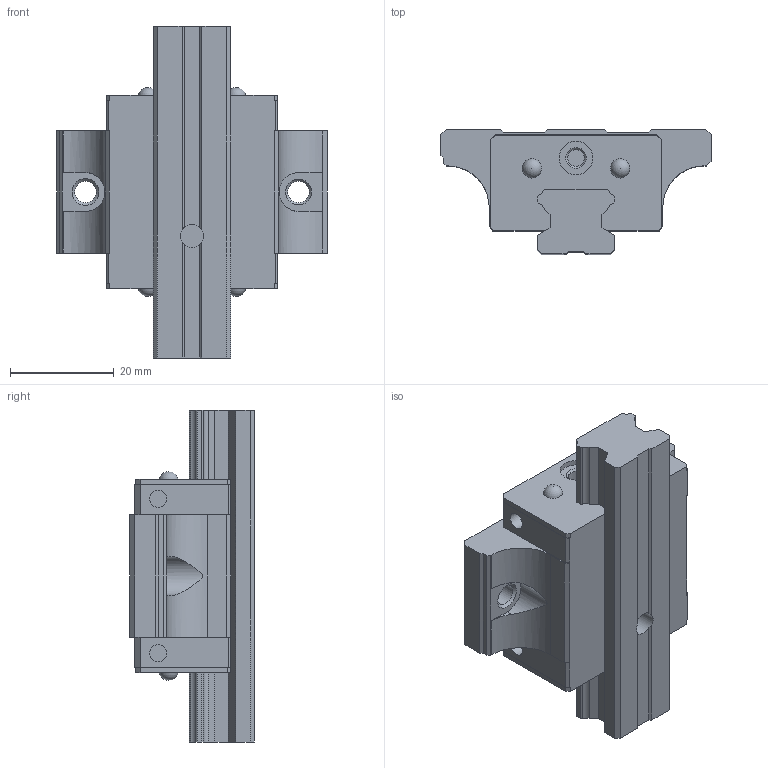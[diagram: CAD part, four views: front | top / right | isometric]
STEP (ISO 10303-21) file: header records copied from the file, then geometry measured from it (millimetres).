
FILE_DESCRIPTION( ( 'STEP AP214' ), '1' );
FILE_NAME( 'C:/Users/mimi4/OneDrive/Desktop/BSQ賅筐葭/MCS/MCS15SF.stp', '2019-11-26T05:19:42', ( ' ' ), ( ' ' ), 'XStep 1.0', 'VISICAD', ' ' );
FILE_SCHEMA( ( 'automotive_design' ) );
Length unit declared in the file: metre
Products named in the file (2): 1; 2
Bounding box: 52 x 24 x 63.9 mm (x, y, z)
Volume: 32542.8 mm3; surface area: 11787.1 mm2
Topology: 2 solids, 6 shells, 168 faces, 447 edges, 299 vertices
Faces by surface type: plane 130, cylinder 28, cone 6, sphere 4
Full cylindrical faces by diameter (mm): 3.242 x2, 3.3 x4, 4 x4, 4.134 x2, 4.5 x1, 6.5 x2, 7.5 x1
Entity records: 6336 total; most frequent: CARTESIAN_POINT 928, DIRECTION 816, ORIENTED_EDGE 802, EDGE_CURVE 401, LINE 322, VECTOR 322, VERTEX_POINT 279, AXIS2_PLACEMENT_3D 247
